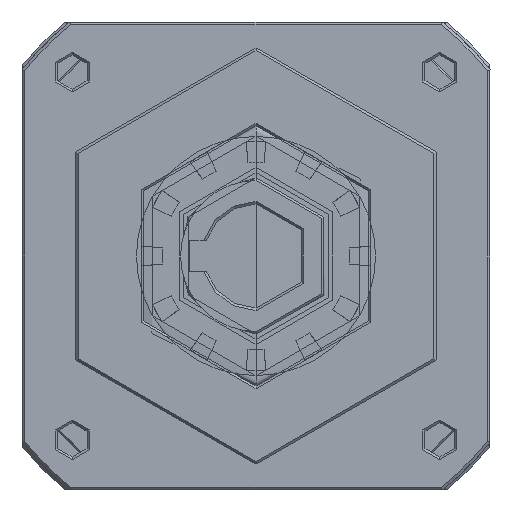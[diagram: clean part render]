
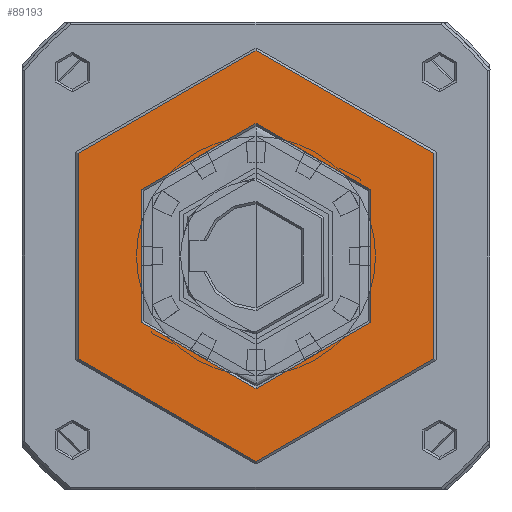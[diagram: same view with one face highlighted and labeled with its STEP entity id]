
A CAD part, left-side view. The second image highlights one B-rep face of the part: STEP entity #89193.
In plain terms, the highlighted planar face has unit normal (-1, 0, 0).
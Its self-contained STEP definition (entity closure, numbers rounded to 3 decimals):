
#3282 = AXIS2_PLACEMENT_3D ( 'NONE', #42863, #21188, #49782 ) ;
#7679 = EDGE_CURVE ( 'NONE', #53247, #14268, #23337, .T. ) ;
#7972 = AXIS2_PLACEMENT_3D ( 'NONE', #11176, #59194, #17857 ) ;
#11176 = CARTESIAN_POINT ( 'NONE',  ( 0., 0., 0. ) ) ;
#14268 = VERTEX_POINT ( 'NONE', #45109 ) ;
#15694 = EDGE_LOOP ( 'NONE', ( #37819, #18651 ) ) ;
#17857 = DIRECTION ( 'NONE',  ( 0., 0., -1. ) ) ;
#18436 = EDGE_CURVE ( 'NONE', #14268, #53247, #51910, .T. ) ;
#18651 = ORIENTED_EDGE ( 'NONE', *, *, #18436, .T. ) ;
#19393 = EDGE_CURVE ( 'NONE', #69874, #86260, #61080, .T. ) ;
#21188 = DIRECTION ( 'NONE',  ( 1., 0., 0. ) ) ;
#23337 = CIRCLE ( 'NONE', #7972, 39.5 ) ;
#24282 = AXIS2_PLACEMENT_3D ( 'NONE', #35268, #28627, #54920 ) ;
#24981 = CARTESIAN_POINT ( 'NONE',  ( 0., 0., 0. ) ) ;
#28627 = DIRECTION ( 'NONE',  ( -1., 0., 0. ) ) ;
#35268 = CARTESIAN_POINT ( 'NONE',  ( 0., 0., 0. ) ) ;
#37819 = ORIENTED_EDGE ( 'NONE', *, *, #7679, .T. ) ;
#42863 = CARTESIAN_POINT ( 'NONE',  ( 0., -39.974, 39.974 ) ) ;
#45109 = CARTESIAN_POINT ( 'NONE',  ( 0., 0., 39.5 ) ) ;
#47267 = CIRCLE ( 'NONE', #74501, 25.5 ) ;
#48396 = FACE_OUTER_BOUND ( 'NONE', #15694, .T. ) ;
#49782 = DIRECTION ( 'NONE',  ( 0., 0., -1. ) ) ;
#51910 = CIRCLE ( 'NONE', #57189, 39.5 ) ;
#53045 = DIRECTION ( 'NONE',  ( 0., 0., -1. ) ) ;
#53247 = VERTEX_POINT ( 'NONE', #77194 ) ;
#53467 = CARTESIAN_POINT ( 'NONE',  ( 0., 0., 0. ) ) ;
#54920 = DIRECTION ( 'NONE',  ( 0., 0., 1. ) ) ;
#57189 = AXIS2_PLACEMENT_3D ( 'NONE', #24981, #74510, #53045 ) ;
#59194 = DIRECTION ( 'NONE',  ( -1., 0., 0. ) ) ;
#60319 = FACE_BOUND ( 'NONE', #84399, .T. ) ;
#61080 = CIRCLE ( 'NONE', #24282, 25.5 ) ;
#67064 = EDGE_CURVE ( 'NONE', #86260, #69874, #47267, .T. ) ;
#67172 = ORIENTED_EDGE ( 'NONE', *, *, #19393, .F. ) ;
#69874 = VERTEX_POINT ( 'NONE', #87357 ) ;
#74501 = AXIS2_PLACEMENT_3D ( 'NONE', #53467, #74927, #80667 ) ;
#74510 = DIRECTION ( 'NONE',  ( -1., 0., 0. ) ) ;
#74927 = DIRECTION ( 'NONE',  ( -1., 0., 0. ) ) ;
#77194 = CARTESIAN_POINT ( 'NONE',  ( 0., 0., -39.5 ) ) ;
#80391 = CARTESIAN_POINT ( 'NONE',  ( 0., 0., 25.5 ) ) ;
#80667 = DIRECTION ( 'NONE',  ( 0., 0., 1. ) ) ;
#82150 = ORIENTED_EDGE ( 'NONE', *, *, #67064, .F. ) ;
#84285 = PLANE ( 'NONE',  #3282 ) ;
#84399 = EDGE_LOOP ( 'NONE', ( #82150, #67172 ) ) ;
#86260 = VERTEX_POINT ( 'NONE', #80391 ) ;
#87357 = CARTESIAN_POINT ( 'NONE',  ( 0., 0., -25.5 ) ) ;
#89193 = ADVANCED_FACE ( 'NONE', ( #60319, #48396 ), #84285, .F. ) ;
